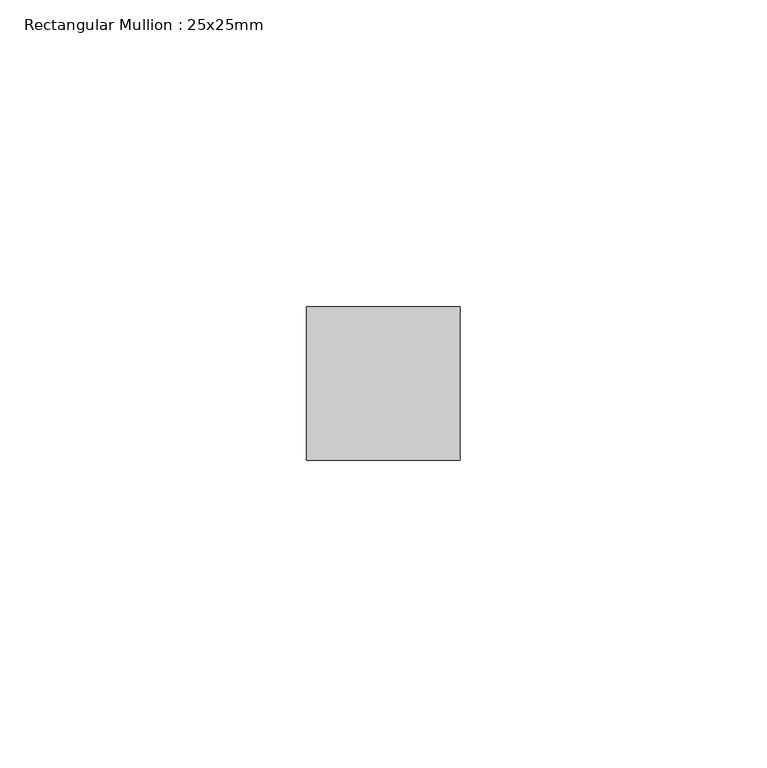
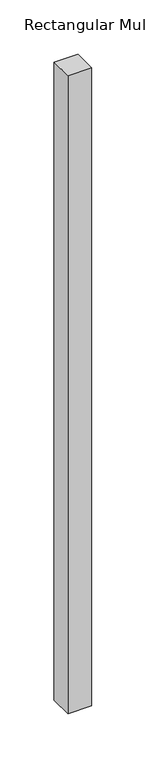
"""IFC4 building model written with IfcOpenShell, lengths in millimetres: member geometry, Rectangular Mullion : 25x25mm."""

from ifc_helpers import new_model, si_unit, frame, origin, place, context, project, spatial, polyline, outline, extrude, source, transform, mapped, element, save


def rectangular_mullion_25x25mm_bd52b051(model_context):
    return source(origin(), model_context, "Body", "SweptSolid", [
        extrude(outline(polyline([(0.0, 24.5), (0.0, -0.5), (-25.0, -0.5), (-25.0, 24.5), (0.0, 24.5)])), frame((0.0, 0.0, -715.0041399), z_axis=(0.0, 0.0, 1.0), x_axis=(1.0, 0.0, 0.0)), (0.0, 0.0, 1.0), 715.0041399),
    ])


if __name__ == "__main__":
    model = new_model("IFC4")
    model_context = context("Model", 3, world=origin())
    ifc_project = project(units=[si_unit("LENGTHUNIT", "METRE", prefix="MILLI")], contexts=[model_context])
    site = spatial("IfcSite", under=ifc_project)
    building = spatial("IfcBuilding", under=site)
    placement = place(None, origin())
    rectangular_mullion_25x25mm_shape = rectangular_mullion_25x25mm_bd52b051(model_context)
    element("IfcMember", 1, ObjectType="Rectangular Mullion : 25x25mm", at=placement, inside=building, context=model_context, shape_type="MappedRepresentation", body=[
        mapped(rectangular_mullion_25x25mm_shape, transform((0.0, 0.0, 0.0), x_axis=(1.0, 0.0, 0.0), y_axis=(0.0, 1.0, 0.0), z_axis=(0.0, 0.0, 1.0))),
    ])
    save(model, "model.ifc")
